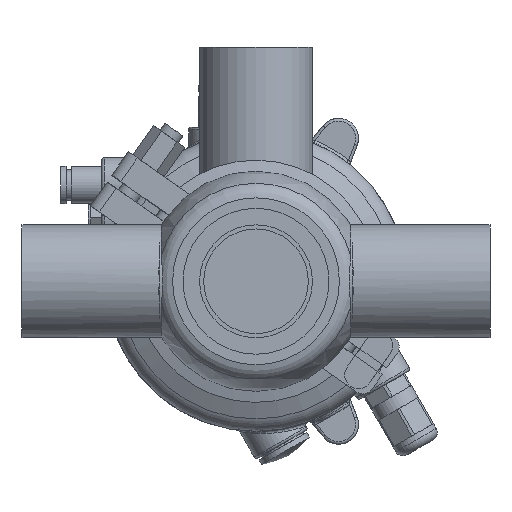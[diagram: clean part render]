
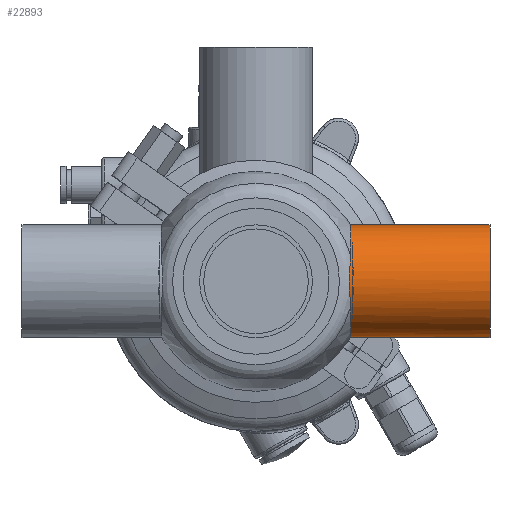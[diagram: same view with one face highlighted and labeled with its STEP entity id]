
A CAD part, front view. The second image highlights one B-rep face of the part: STEP entity #22893.
In plain terms, the highlighted cylindrical face has radius 20.5 mm (diameter 41 mm), a full revolution.
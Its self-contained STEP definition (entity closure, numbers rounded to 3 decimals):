
#2495 = FACE_OUTER_BOUND ( 'NONE', #41446, .T. ) ;
#4765 = ORIENTED_EDGE ( 'NONE', *, *, #51946, .T. ) ;
#4801 = CARTESIAN_POINT ( 'NONE',  ( 85., 0., 20.5 ) ) ;
#6471 = CARTESIAN_POINT ( 'NONE',  ( 33.803, -20.453, 1.603 ) ) ;
#6472 = EDGE_CURVE ( 'NONE', #43440, #37034, #56240, .T. ) ;
#6759 = CARTESIAN_POINT ( 'NONE',  ( 33.914, -20.251, -3.21 ) ) ;
#9695 = ORIENTED_EDGE ( 'NONE', *, *, #6472, .T. ) ;
#9861 = CARTESIAN_POINT ( 'NONE',  ( 34.347, -18.261, -9.316 ) ) ;
#10004 = VERTEX_POINT ( 'NONE', #4801 ) ;
#11197 = CIRCLE ( 'NONE', #24649, 20.5 ) ;
#11376 = CARTESIAN_POINT ( 'NONE',  ( 33.803, -20.453, -1.604 ) ) ;
#11666 = CARTESIAN_POINT ( 'NONE',  ( 34.203, -19.556, -6.355 ) ) ;
#11950 = CARTESIAN_POINT ( 'NONE',  ( 34.347, -18.261, 9.316 ) ) ;
#12616 = DIRECTION ( 'NONE',  ( 0., 0., 1. ) ) ;
#15895 = AXIS2_PLACEMENT_3D ( 'NONE', #40552, #21737, #12616 ) ;
#15931 = CARTESIAN_POINT ( 'NONE',  ( 33.772, -20.5, -0.802 ) ) ;
#19825 = CIRCLE ( 'NONE', #15895, 20.5 ) ;
#20192 = CYLINDRICAL_SURFACE ( 'NONE', #56295, 20.5 ) ;
#20487 = CARTESIAN_POINT ( 'NONE',  ( 34.203, -19.557, 6.355 ) ) ;
#21062 = DIRECTION ( 'NONE',  ( 0., 0., 1. ) ) ;
#21069 = CARTESIAN_POINT ( 'NONE',  ( 34.347, -19.003, -7.861 ) ) ;
#21737 = DIRECTION ( 'NONE',  ( -1., 0., 0. ) ) ;
#22893 = ADVANCED_FACE ( 'NONE', ( #44178, #2495 ), #20192, .T. ) ;
#24649 = AXIS2_PLACEMENT_3D ( 'NONE', #34428, #34991, #57074 ) ;
#25038 = CARTESIAN_POINT ( 'NONE',  ( 33.772, -20.5, 0.802 ) ) ;
#25335 = CARTESIAN_POINT ( 'NONE',  ( 33.983, -20.109, -4.007 ) ) ;
#30206 = CARTESIAN_POINT ( 'NONE',  ( 34.347, -18.261, -9.316 ) ) ;
#34428 = CARTESIAN_POINT ( 'NONE',  ( 34.347, 0., 0. ) ) ;
#34749 = CARTESIAN_POINT ( 'NONE',  ( 33.982, -20.121, 4.006 ) ) ;
#34991 = DIRECTION ( 'NONE',  ( 1., 0., 0. ) ) ;
#37034 = VERTEX_POINT ( 'NONE', #9861 ) ;
#37388 = EDGE_LOOP ( 'NONE', ( #4765, #9695 ) ) ;
#38713 = DIRECTION ( 'NONE',  ( -1., 0., 0. ) ) ;
#40552 = CARTESIAN_POINT ( 'NONE',  ( 85., 0., 0. ) ) ;
#41446 = EDGE_LOOP ( 'NONE', ( #43915 ) ) ;
#43440 = VERTEX_POINT ( 'NONE', #52613 ) ;
#43915 = ORIENTED_EDGE ( 'NONE', *, *, #47298, .T. ) ;
#44178 = FACE_OUTER_BOUND ( 'NONE', #37388, .T. ) ;
#47298 = EDGE_CURVE ( 'NONE', #10004, #10004, #19825, .T. ) ;
#48207 = CARTESIAN_POINT ( 'NONE',  ( 34.347, -19.003, 7.862 ) ) ;
#48505 = CARTESIAN_POINT ( 'NONE',  ( 33.882, -20.311, -2.808 ) ) ;
#49089 = CARTESIAN_POINT ( 'NONE',  ( 33.908, -20.264, 3.204 ) ) ;
#51946 = EDGE_CURVE ( 'NONE', #37034, #43440, #11197, .T. ) ;
#52613 = CARTESIAN_POINT ( 'NONE',  ( 34.347, -18.261, 9.316 ) ) ;
#53357 = CARTESIAN_POINT ( 'NONE',  ( 34.02, -20.026, -4.401 ) ) ;
#53635 = CARTESIAN_POINT ( 'NONE',  ( 0., 0., 0. ) ) ;
#56240 = B_SPLINE_CURVE_WITH_KNOTS ( 'NONE', 3,
 ( #11950, #48207, #20487, #34749, #49089, #6471, #25038, #15931, #11376, #48505, #6759, #25335, #53357, #11666, #21069, #30206 ),
 .UNSPECIFIED., .F., .F.,
 ( 4, 2, 2, 2, 2, 2, 2, 4 ),
 ( 0., 0.005, 0.007, 0.01, 0.012, 0.013, 0.014, 0.019 ),
 .UNSPECIFIED. ) ;
#56295 = AXIS2_PLACEMENT_3D ( 'NONE', #53635, #38713, #21062 ) ;
#57074 = DIRECTION ( 'NONE',  ( 0., 0., 1. ) ) ;
